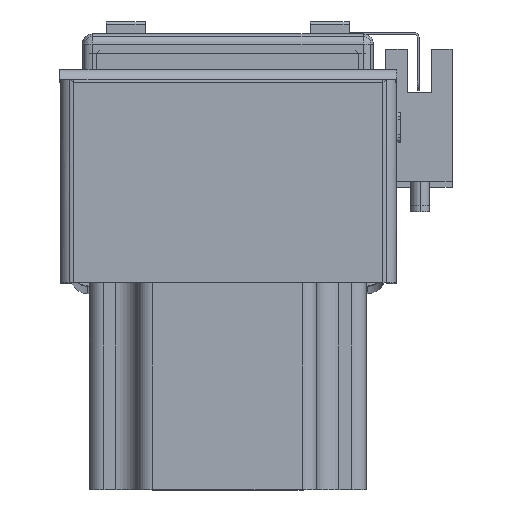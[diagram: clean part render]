
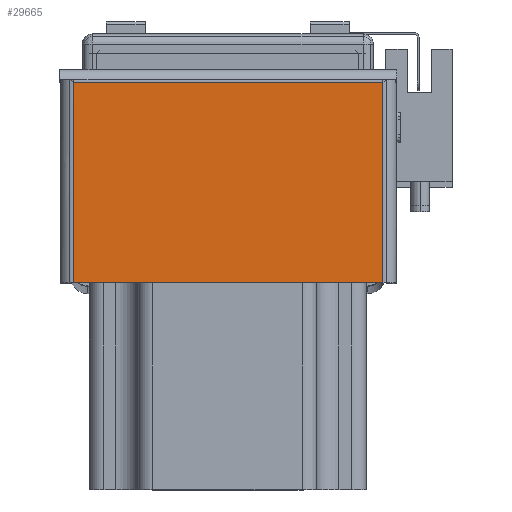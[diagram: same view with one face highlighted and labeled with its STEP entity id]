
A CAD part, top view. The second image highlights one B-rep face of the part: STEP entity #29665.
In plain terms, the highlighted planar face has unit normal (0, 0, 1) as drawn and (1, 0, 0) by its records, which use the part's own axes.
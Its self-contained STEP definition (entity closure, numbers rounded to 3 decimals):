
#6784 = CARTESIAN_POINT ( 'NONE',  ( 2., 0., -31.863 ) ) ;
#6791 = CARTESIAN_POINT ( 'NONE',  ( 2., 41.263, -31.863 ) ) ;
#6795 = CARTESIAN_POINT ( 'NONE',  ( 2., 0., 31.863 ) ) ;
#6826 = CARTESIAN_POINT ( 'NONE',  ( 2., 41.263, 31.863 ) ) ;
#7928 = VECTOR ( 'NONE', #13069, 1000. ) ;
#7940 = LINE ( 'NONE', #13034, #7928 ) ;
#8059 = VECTOR ( 'NONE', #13269, 1000. ) ;
#8075 = LINE ( 'NONE', #13245, #8059 ) ;
#10188 = VERTEX_POINT ( 'NONE', #6795 ) ;
#10213 = VERTEX_POINT ( 'NONE', #6784 ) ;
#10216 = VERTEX_POINT ( 'NONE', #6791 ) ;
#10243 = VERTEX_POINT ( 'NONE', #6826 ) ;
#12963 = CARTESIAN_POINT ( 'NONE',  ( 2., 42., -31.863 ) ) ;
#12966 = DIRECTION ( 'NONE',  ( 0., -1., 0. ) ) ;
#12967 = DIRECTION ( 'NONE',  ( 0., -1., 0. ) ) ;
#12985 = CARTESIAN_POINT ( 'NONE',  ( 2., 42., 31.863 ) ) ;
#13034 = CARTESIAN_POINT ( 'NONE',  ( 2., 41.263, -31.863 ) ) ;
#13069 = DIRECTION ( 'NONE',  ( 0., 0., 1. ) ) ;
#13245 = CARTESIAN_POINT ( 'NONE',  ( 2., 0., -32.6 ) ) ;
#13269 = DIRECTION ( 'NONE',  ( 0., 0., -1. ) ) ;
#15235 = FACE_OUTER_BOUND ( 'NONE', #23488, .T. ) ;
#15894 = AXIS2_PLACEMENT_3D ( 'NONE', #28350, #28336, #28333 ) ;
#22100 = EDGE_CURVE ( 'NONE', #10243, #10188, #26157, .T. ) ;
#22107 = EDGE_CURVE ( 'NONE', #10216, #10213, #26182, .T. ) ;
#22123 = EDGE_CURVE ( 'NONE', #10216, #10243, #7940, .T. ) ;
#22209 = EDGE_CURVE ( 'NONE', #10188, #10213, #8075, .T. ) ;
#23488 = EDGE_LOOP ( 'NONE', ( #31585, #31568, #31592, #31603 ) ) ;
#25056 = VECTOR ( 'NONE', #12967, 1000. ) ;
#26157 = LINE ( 'NONE', #12985, #26185 ) ;
#26182 = LINE ( 'NONE', #12963, #25056 ) ;
#26185 = VECTOR ( 'NONE', #12966, 1000. ) ;
#28324 = PLANE ( 'NONE',  #15894 ) ;
#28333 = DIRECTION ( 'NONE',  ( 0., 0., 1. ) ) ;
#28336 = DIRECTION ( 'NONE',  ( -1., 0., 0. ) ) ;
#28350 = CARTESIAN_POINT ( 'NONE',  ( 2., 42., -32.6 ) ) ;
#29665 = ADVANCED_FACE ( 'NONE', ( #15235 ), #28324, .F. ) ;
#31568 = ORIENTED_EDGE ( 'NONE', *, *, #22100, .T. ) ;
#31585 = ORIENTED_EDGE ( 'NONE', *, *, #22123, .T. ) ;
#31592 = ORIENTED_EDGE ( 'NONE', *, *, #22209, .T. ) ;
#31603 = ORIENTED_EDGE ( 'NONE', *, *, #22107, .F. ) ;
